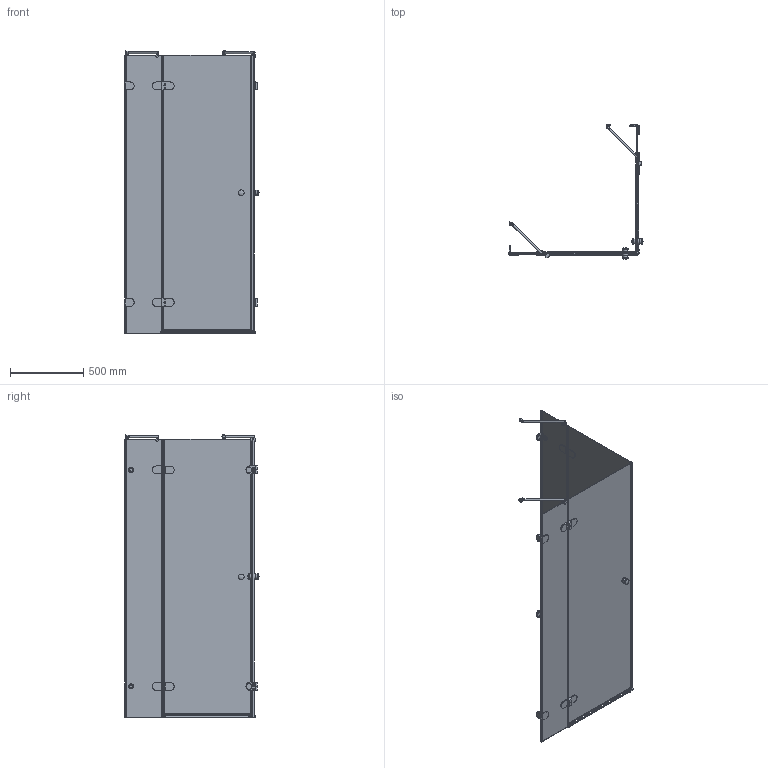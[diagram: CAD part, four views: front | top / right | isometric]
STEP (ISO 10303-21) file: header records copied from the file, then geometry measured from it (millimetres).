
FILE_DESCRIPTION(/* description */ (''),/* implementation_level */ '2;1');
FILE_NAME(/* name */ 'E:\Работа\Сергей\Душевые кабинки\! Работа\777\LUX SQUARE GK-004\LUX SQUARE GK-004-3D.stp',/* time_stamp */ '2018-04-20T20:23:05+03:00',/* author */ ('PC'),/* organization */ (''),/* preprocessor_version */ 'ST-DEVELOPER v15.2',/* originating_system */ 'Autodesk Inventor 2014',/* authorisation */ '');
FILE_SCHEMA (('AUTOMOTIVE_DESIGN { 1 0 10303 214 3 1 1 }'));
Length unit declared in the file: millimetre
Products named in the file (1): LUX SQUARE GK-004-3D
Bounding box: 918 x 918 x 1931.5 mm (x, y, z)
Volume: 21225453.7 mm3; surface area: 7291868.9 mm2
Topology: 7 solids, 7 shells, 1111 faces, 2717 edges, 1670 vertices
Faces by surface type: plane 806, cylinder 242, torus 32, sphere 14, bspline 13, cone 4
Full cylindrical faces by diameter (mm): 12 x2, 15 x2, 20 x4, 26 x2, 30 x4, 35 x4, 38 x8, 40 x4
Entity records: 33426 total; most frequent: CARTESIAN_POINT 6493, DIRECTION 5331, ORIENTED_EDGE 5278, EDGE_CURVE 2639, LINE 1989, VECTOR 1989, AXIS2_PLACEMENT_3D 1671, VERTEX_POINT 1646
